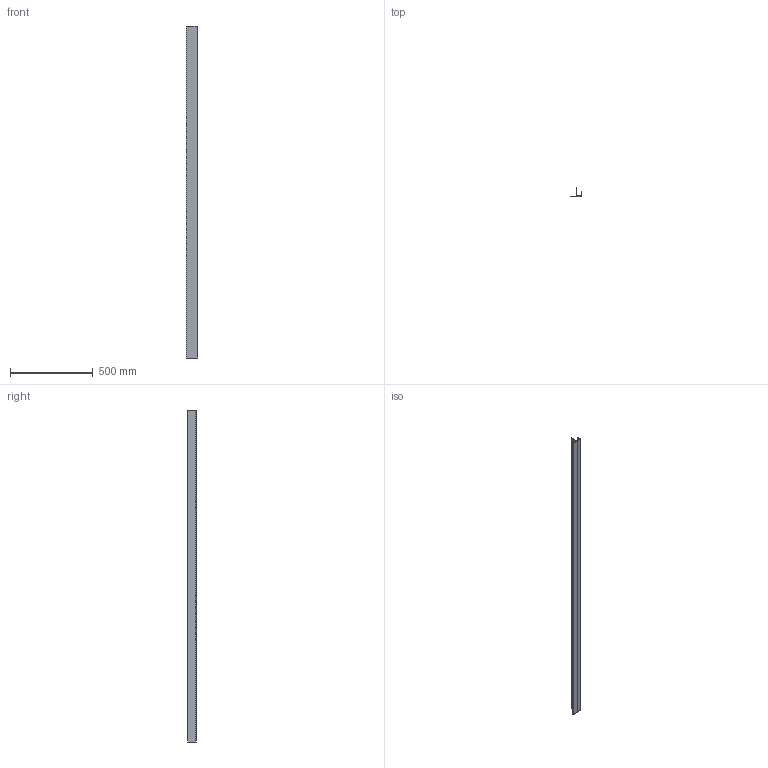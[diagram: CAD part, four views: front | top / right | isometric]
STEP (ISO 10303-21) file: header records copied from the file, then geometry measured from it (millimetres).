
FILE_DESCRIPTION (( 'STEP AP203' ), '1' );
FILE_NAME ('M03A.STEP', '2018-06-16T00:05:42', ( 'Michael Moliner' ), ( '' ), 'SwSTEP 2.0', 'SolidWorks 2018', '' );
FILE_SCHEMA (( 'CONFIG_CONTROL_DESIGN' ));
Length unit declared in the file: inch
Products named in the file (2): M03A
Bounding box: 66.67 x 53.21 x 2000 mm (x, y, z)
Volume: 193393 mm3; surface area: 763615 mm2
Topology: 1 solids, 1 shells, 26 faces, 72 edges, 48 vertices
Faces by surface type: plane 16, cylinder 10
Entity records: 993 total; most frequent: CARTESIAN_POINT 148, DIRECTION 148, ORIENTED_EDGE 144, EDGE_CURVE 72, VECTOR 52, LINE 52, VERTEX_POINT 48, AXIS2_PLACEMENT_3D 48
